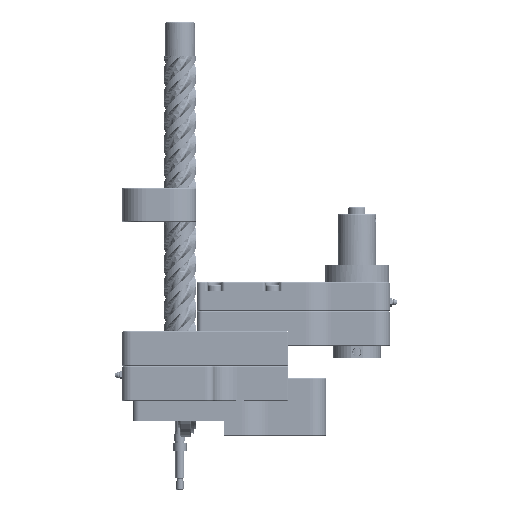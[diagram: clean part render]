
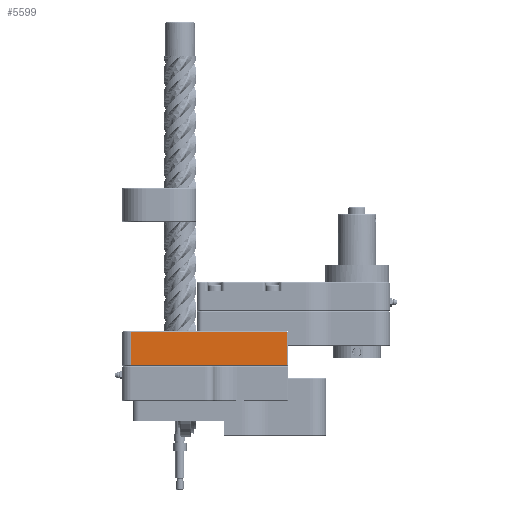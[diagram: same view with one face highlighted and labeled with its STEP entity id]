
A CAD part, front view. The second image highlights one B-rep face of the part: STEP entity #5599.
In plain terms, the highlighted planar face has unit normal (0, -1, 0).
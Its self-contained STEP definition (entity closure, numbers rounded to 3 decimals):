
#5599 = ADVANCED_FACE( '', ( #11900 ), #11901, .F. );
#11900 = FACE_OUTER_BOUND( '', #108752, .T. );
#11901 = PLANE( '', #108753 );
#108752 = EDGE_LOOP( '', ( #126313, #126314, #126315, #126316 ) );
#108753 = AXIS2_PLACEMENT_3D( '', #126317, #126318, #126319 );
#126313 = ORIENTED_EDGE( '', *, *, #129260, .T. );
#126314 = ORIENTED_EDGE( '', *, *, #127161, .T. );
#126315 = ORIENTED_EDGE( '', *, *, #131702, .T. );
#126316 = ORIENTED_EDGE( '', *, *, #129249, .T. );
#126317 = CARTESIAN_POINT( '', ( 115.888, -50.8, 0. ) );
#126318 = DIRECTION( '', ( 0., 1., 0. ) );
#126319 = DIRECTION( '', ( 1., 0., 0. ) );
#127161 = EDGE_CURVE( '', #133806, #133811, #133813, .T. );
#129249 = EDGE_CURVE( '', #137354, #137352, #137355, .T. );
#129260 = EDGE_CURVE( '', #137352, #133806, #137370, .T. );
#131702 = EDGE_CURVE( '', #133811, #137354, #140911, .T. );
#133806 = VERTEX_POINT( '', #145212 );
#133811 = VERTEX_POINT( '', #145219 );
#133813 = LINE( '', #145222, #145223 );
#137352 = VERTEX_POINT( '', #158255 );
#137354 = VERTEX_POINT( '', #158258 );
#137355 = LINE( '', #158259, #158260 );
#137370 = LINE( '', #158281, #158282 );
#140911 = LINE( '', #171723, #171724 );
#145212 = CARTESIAN_POINT( '', ( -52.388, -50.8, 0.787 ) );
#145219 = CARTESIAN_POINT( '', ( 115.1, -50.8, 0.787 ) );
#145222 = CARTESIAN_POINT( '', ( 115.888, -50.8, 0.787 ) );
#145223 = VECTOR( '', #176948, 1000. );
#158255 = CARTESIAN_POINT( '', ( -52.388, -50.8, 36.551 ) );
#158258 = CARTESIAN_POINT( '', ( 115.1, -50.8, 36.551 ) );
#158259 = CARTESIAN_POINT( '', ( 115.888, -50.8, 36.551 ) );
#158260 = VECTOR( '', #178758, 1000. );
#158281 = CARTESIAN_POINT( '', ( -52.388, -50.8, 0. ) );
#158282 = VECTOR( '', #178768, 1000. );
#171723 = CARTESIAN_POINT( '', ( 115.1, -50.8, 0. ) );
#171724 = VECTOR( '', #180696, 1000. );
#176948 = DIRECTION( '', ( 1., 0., 0. ) );
#178758 = DIRECTION( '', ( -1., 0., 0. ) );
#178768 = DIRECTION( '', ( 0., 0., -1. ) );
#180696 = DIRECTION( '', ( 0., 0., 1. ) );
